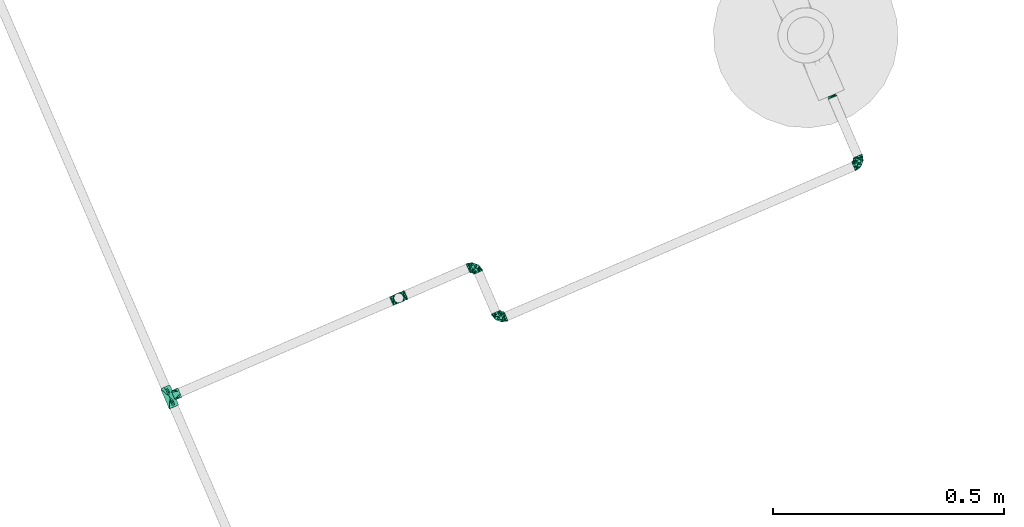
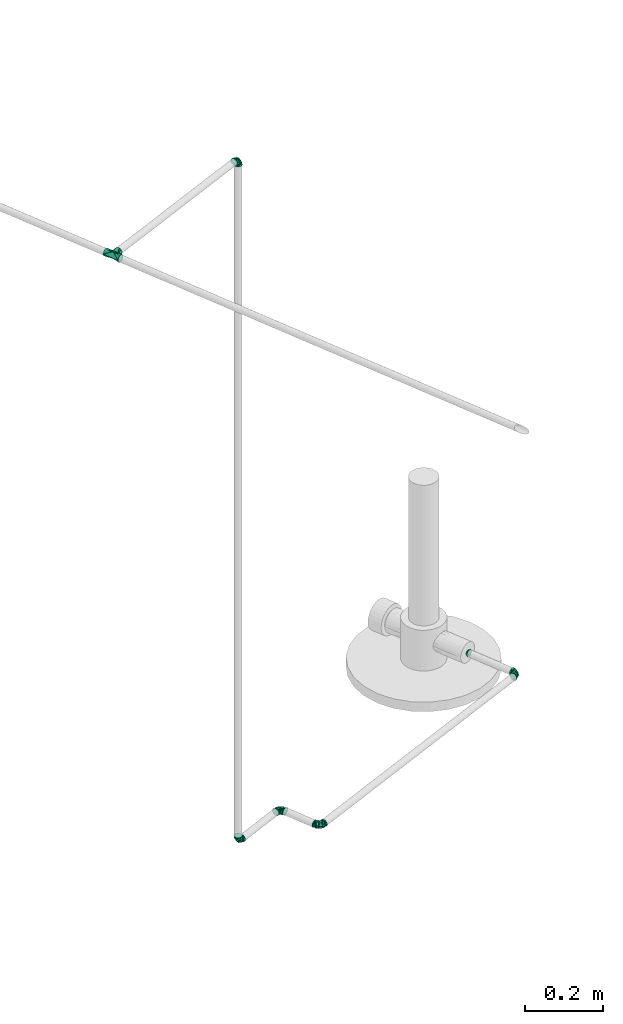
# One storey, part 23 of 26: 7 pipe fittings.
"""IFC4 building model written with IfcOpenShell, lengths in metres."""

from ifc_helpers import new_model, entity, si_unit, converted_unit, derived_unit, direction, frame, origin, place, context, subcontext, project, spatial, polygons, source, transform, mapped, material, type_object, type_shapes, element, save


model = new_model("IFC4")

# Units and contexts
model_context = context("Model", 3, precision=1e-05, world=origin(), true_north=direction((6.12323399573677e-17, 1.0)))
body_context = subcontext(model_context, "Body", "Model", "MODEL_VIEW")
ifc_project = project(units=[si_unit("LENGTHUNIT", "METRE"), si_unit("AREAUNIT", "SQUARE_METRE"), si_unit("VOLUMEUNIT", "CUBIC_METRE"), si_unit("PRESSUREUNIT", "PASCAL"), derived_unit("VOLUMETRICFLOWRATEUNIT", [(si_unit("LENGTHUNIT", "METRE", prefix="DECI"), 3), (si_unit("TIMEUNIT", "SECOND"), -1)]), converted_unit("PLANEANGLEUNIT", "DEGREE", entity("IfcPlaneAngleMeasure", 0.0174532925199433), si_unit("PLANEANGLEUNIT", "RADIAN"), dimensions=[0, 0, 0, 0, 0, 0, 0])], contexts=[model_context])

# Site, building, storey
site_placement = place(None, origin())
site = spatial("IfcSite", under=ifc_project, at=site_placement, Name="Default", CompositionType="ELEMENT")
building_placement = place(site_placement, frame((24.575451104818, -55.896759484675, 317.15), z_axis=(0.0, 0.0, 1.0), x_axis=(-0.396377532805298, 0.918087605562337, 0.0)))
building = spatial("IfcBuilding", under=site, at=building_placement, CompositionType="ELEMENT")
storey_placement = place(building_placement, origin())
storey = spatial("IfcBuildingStorey", under=building, at=storey_placement, Name="Nivel 1", CompositionType="ELEMENT", Elevation=0.0)

# Pipe fittings
ifc_material = material(Name="<Unnamed>")
pipe_fitting_type_1 = type_object("IfcPipeFittingType", Name="M_Transición - Genérica:Norma", PredefinedType="NOTDEFINED", material=ifc_material)
shared_shape_1 = source(origin(), body_context, "Body", "Tessellation", [
    polygons([(0.00555625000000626, -0.0111125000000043, -4.0295957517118e-05), (0.00555625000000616, -0.00555625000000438, -0.0096640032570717), (0.00555625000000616, 0.00555624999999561, -0.00966400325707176), (0.00555625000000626, 0.0111124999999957, -4.02959575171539e-05), (0.00555625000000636, 0.00555624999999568, 0.00958341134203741), (0.00555625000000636, -0.00555625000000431, 0.00958341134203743), (6.26381199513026e-15, -0.0080875, 2.61314334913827e-17), (6.33577987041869e-15, -0.00404374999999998, 0.00700398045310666), (6.33577987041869e-15, 0.00404375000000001, 0.00700398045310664), (6.26381199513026e-15, 0.0080875, -5.22628669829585e-17), (6.19184411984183e-15, 0.00404374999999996, -0.00700398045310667), (6.19184411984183e-15, -0.00404375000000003, -0.00700398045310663), (0.00211556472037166, -0.00923928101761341, -1.5342849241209e-05), (0.00277812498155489, 6.79238755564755e-10, -0.00962014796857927), (0.00344068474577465, 0.00996071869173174, -2.49531044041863e-05), (0.00277812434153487, -0.00748871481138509, -0.00602673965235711), (0.00277812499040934, 0.00530118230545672, -0.00802373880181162), (0.0021260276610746, 0.00924497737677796, -1.54187303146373e-05), (0.00277812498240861, -6.76468328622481e-10, 0.00957985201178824), (0.00343022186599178, -0.00995502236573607, -2.48772237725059e-05), (0.00277812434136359, 0.00748698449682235, 0.00598860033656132), (0.00277812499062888, -0.00530118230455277, 0.00798344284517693)], [[[4, 5, 6, 1, 2, 3]], [[8, 9, 10, 11, 12, 7]], [[16, 1, 20, 13, 7]], [[12, 16, 7]], [[12, 11, 14]], [[2, 16, 14]], [[17, 10, 18, 15]], [[4, 3, 15]], [[17, 3, 14]], [[14, 11, 17]], [[14, 16, 12]], [[10, 17, 11]], [[3, 2, 14]], [[15, 3, 17]], [[1, 16, 2]], [[21, 4, 15, 18, 10]], [[9, 21, 10]], [[9, 8, 19]], [[5, 21, 19]], [[22, 7, 13, 20]], [[1, 6, 20]], [[22, 6, 19]], [[19, 8, 22]], [[19, 21, 9]], [[7, 22, 8]], [[6, 5, 19]], [[20, 6, 22]], [[4, 21, 5]]], closed=True),
])
type_shapes(pipe_fitting_type_1, [shared_shape_1])
pipe_fitting_1_placement = place(storey_placement, frame((29.0507517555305, 40.9427340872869, 0.855540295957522), z_axis=(0.0, 0.0, 1.0), x_axis=(-1.0, 0.0, 0.0)))
element("IfcPipeFitting", 1, at=pipe_fitting_1_placement, inside=storey, type_object=pipe_fitting_type_1, material=ifc_material, Name="M_Transición - Genérica:Norma", ObjectType="M_Transición - Genérica:Norma", PredefinedType="NOTDEFINED", context=body_context, shape_type="MappedRepresentation", body=[
    mapped(shared_shape_1, transform((0.0, 0.0, 0.0), scale=1.0)),
])
pipe_fitting_type_2 = type_object("IfcPipeFittingType", Name="M_Codo - Genérico:Norma", PredefinedType="NOTDEFINED", material=ifc_material)
shared_shape_2 = source(origin(), body_context, "Body", "Tessellation", [
    polygons([(-0.0174624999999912, -0.0111125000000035, -1.903728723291e-15), (-0.0174624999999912, -0.0107338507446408, 0.00287612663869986), (-0.0174624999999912, -0.0096237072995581, 0.0055562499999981), (-0.0174624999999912, -0.00785772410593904, 0.00785772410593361), (-0.0174624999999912, -0.00555625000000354, 0.00962370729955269), (-0.0174624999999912, -0.00287612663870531, 0.0107338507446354), (-0.0174624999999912, -3.55315776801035e-15, 0.0111124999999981), (-0.0174624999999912, 0.00287612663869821, 0.0107338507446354), (-0.0174624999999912, 0.00555624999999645, 0.00962370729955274), (-0.0174624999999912, 0.00785772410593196, 0.00785772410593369), (-0.0174624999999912, 0.00962370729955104, 0.00555624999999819), (-0.0174624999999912, 0.0107338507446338, 0.00287612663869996), (-0.0174624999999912, 0.0111124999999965, -1.86782324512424e-15), (-0.0174624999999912, 0.0107338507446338, -0.00287612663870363), (-0.0174624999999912, 0.00962370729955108, -0.00555625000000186), (-0.0174624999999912, 0.00785772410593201, -0.00785772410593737), (-0.0174624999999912, 0.00555624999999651, -0.00962370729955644), (-0.0174624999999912, 0.00287612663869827, -0.0107338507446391), (-0.0174624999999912, -3.48759354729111e-15, -0.0111125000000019), (-0.0174624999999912, -0.00287612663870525, -0.0107338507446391), (-0.0174624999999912, -0.00555625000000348, -0.00962370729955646), (-0.0174624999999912, -0.00785772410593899, -0.0078577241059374), (-0.0174624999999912, -0.00962370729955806, -0.00555625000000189), (-0.0174624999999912, -0.0107338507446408, -0.00287612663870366), (0.0111125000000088, 0.0174624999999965, -1.89879378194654e-15), (0.010733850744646, 0.0174624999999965, -0.00287612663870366), (0.00962370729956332, 0.0174624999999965, -0.00555625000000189), (0.00785772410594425, 0.0174624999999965, -0.0078577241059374), (0.00555625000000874, 0.0174624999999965, -0.00962370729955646), (0.0028761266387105, 0.0174624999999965, -0.0107338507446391), (8.74542105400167e-15, 0.0174624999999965, -0.0111125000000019), (-0.00287612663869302, 0.0174624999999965, -0.0107338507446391), (-0.00555624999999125, 0.0174624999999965, -0.00962370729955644), (-0.00785772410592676, 0.0174624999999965, -0.00785772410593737), (-0.00962370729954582, 0.0174624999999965, -0.00555625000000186), (-0.0107338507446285, 0.0174624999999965, -0.00287612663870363), (-0.0111124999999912, 0.0174624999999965, -1.80588217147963e-15), (-0.0107338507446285, 0.0174624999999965, 0.00287612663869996), (-0.00962370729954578, 0.0174624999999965, 0.00555624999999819), (-0.00785772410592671, 0.0174624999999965, 0.00785772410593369), (-0.00555624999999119, 0.0174624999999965, 0.00962370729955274), (-0.00287612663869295, 0.0174624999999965, 0.0107338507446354), (8.81098527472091e-15, 0.0174624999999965, 0.0111124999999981), (0.00287612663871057, 0.0174624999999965, 0.0107338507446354), (0.0055562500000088, 0.0174624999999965, 0.00962370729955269), (0.0078577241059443, 0.0174624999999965, 0.00785772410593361), (0.00962370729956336, 0.0174624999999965, 0.0055562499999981), (0.010733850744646, 0.0174624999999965, 0.00287612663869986), (-0.0129723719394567, 0.0129723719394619, -1.79601228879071e-15), (-0.00317499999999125, -0.00728417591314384, -1.903728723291e-15), (0.00728417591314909, 0.00317499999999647, -1.903728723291e-15), (-0.0100511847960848, -0.00912664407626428, -1.903728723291e-15), (0.00912664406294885, 0.0100511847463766, -1.903728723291e-15), (-0.013756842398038, -0.0101195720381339, -1.903728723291e-15), (0.0101195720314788, 0.0137568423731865, -1.903728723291e-15), (-0.0156096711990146, -0.0106160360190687, -1.903728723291e-15), (0.0106160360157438, 0.0156096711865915, -1.903728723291e-15), (0.00205458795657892, -0.00205458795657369, -1.903728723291e-15), (-0.00555538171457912, 0.00884629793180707, 0.0107630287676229), (-0.00691389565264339, 0.00169494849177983, 0.011009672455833), (0.00190822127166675, 0.00896555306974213, 0.0104820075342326), (-0.00661309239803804, -0.00820540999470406, -1.903728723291e-15), (-0.00947063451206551, -0.00404538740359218, 0.00966608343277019), (0.00557118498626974, 0.0106586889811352, 0.00897323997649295), (-0.0129388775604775, 0.00860307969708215, 0.00818609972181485), (-0.00836753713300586, 0.00728984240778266, 0.0104364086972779), (-0.00044279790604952, 0.00110833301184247, 0.00926146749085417), (0.004669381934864, 0.00056020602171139, -1.903728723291e-15), (0.00194294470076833, 0.00415442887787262, 0.00930962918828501), (-0.000560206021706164, -0.00466938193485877, -1.903728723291e-15), (0.00820540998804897, 0.00661309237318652, -1.903728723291e-15), (-0.0055553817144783, 0.00884629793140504, -0.0107630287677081), (-0.00691389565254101, 0.00169494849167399, -0.0110096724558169), (0.0019082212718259, 0.00896555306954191, -0.0104820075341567), (-0.00947063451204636, -0.00404538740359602, -0.0096660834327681), (0.00557118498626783, 0.0106586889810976, -0.00897323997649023), (-0.012938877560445, 0.00860307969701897, -0.00818609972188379), (-0.00836753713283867, 0.00728984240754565, -0.010436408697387), (-0.000442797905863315, 0.00110833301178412, -0.00926146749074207), (0.00194294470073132, 0.00415442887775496, -0.00930962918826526)], [[[17, 18, 19, 20, 21, 22, 23, 24, 1, 2, 3, 4, 5, 6, 7, 8, 9, 10, 11, 12, 13, 14, 15, 16]], [[31, 32, 33, 34, 35, 36, 37, 38, 39, 40, 41, 42, 43, 44, 45, 46, 47, 48, 25, 26, 27, 28, 29, 30]], [[2, 56, 3]], [[6, 62, 7]], [[67, 69, 59]], [[39, 61, 40]], [[52, 5, 4]], [[3, 54, 4]], [[10, 63, 60]], [[5, 52, 6]], [[62, 50, 63]], [[63, 9, 8]], [[59, 66, 67]], [[6, 52, 62]], [[62, 63, 7]], [[63, 8, 7]], [[66, 65, 60]], [[44, 64, 53]], [[13, 12, 65]], [[64, 51, 71, 53]], [[2, 1, 56]], [[66, 49, 65]], [[63, 10, 9]], [[60, 50, 70]], [[49, 13, 65]], [[60, 70, 67]], [[51, 64, 61]], [[43, 64, 44]], [[53, 45, 44]], [[61, 69, 51]], [[42, 64, 43]], [[50, 60, 63]], [[55, 46, 53]], [[67, 70, 58, 68]], [[53, 46, 45]], [[51, 69, 68]], [[48, 57, 25]], [[11, 60, 65]], [[69, 61, 59]], [[52, 4, 54]], [[38, 37, 59]], [[67, 68, 69]], [[49, 59, 37]], [[55, 47, 46]], [[38, 59, 39]], [[47, 57, 48]], [[61, 41, 40]], [[56, 54, 3]], [[39, 59, 61]], [[55, 57, 47]], [[61, 64, 41]], [[41, 64, 42]], [[60, 11, 10]], [[60, 67, 66]], [[11, 65, 12]], [[49, 66, 59]], [[62, 19, 75]], [[68, 80, 51]], [[79, 78, 72]], [[73, 75, 16]], [[77, 78, 73]], [[35, 34, 74]], [[73, 16, 15]], [[58, 70, 79, 68]], [[14, 13, 77]], [[78, 49, 72]], [[49, 78, 77]], [[77, 73, 15]], [[56, 1, 24]], [[79, 70, 73]], [[22, 52, 54]], [[20, 19, 62]], [[72, 74, 80]], [[52, 22, 21]], [[21, 20, 52]], [[16, 75, 17]], [[68, 79, 80]], [[52, 20, 62]], [[72, 49, 37]], [[50, 73, 70]], [[37, 36, 72]], [[73, 78, 79]], [[53, 28, 55]], [[35, 72, 36]], [[51, 80, 74]], [[54, 23, 22]], [[76, 33, 32]], [[57, 55, 27]], [[54, 56, 23]], [[33, 74, 34]], [[23, 56, 24]], [[31, 76, 32]], [[53, 76, 30]], [[15, 14, 77]], [[29, 28, 53]], [[53, 30, 29]], [[30, 76, 31]], [[76, 74, 33]], [[27, 26, 57]], [[75, 19, 18]], [[51, 74, 76]], [[35, 74, 72]], [[18, 17, 75]], [[27, 55, 28]], [[50, 75, 73]], [[26, 25, 57]], [[76, 53, 71, 51]], [[75, 50, 62]], [[13, 49, 77]], [[80, 79, 72]]], closed=True),
])
type_shapes(pipe_fitting_type_2, [shared_shape_2])
pipe_fitting_2_placement = place(storey_placement, frame((28.8907517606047, 40.9427340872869, 0.855499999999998), z_axis=(0.0, 0.0, 1.0), x_axis=(0.0, -1.0, 0.0)))
element("IfcPipeFitting", 2, at=pipe_fitting_2_placement, inside=storey, type_object=pipe_fitting_type_2, material=ifc_material, Name="M_Codo - Genérico:Norma", ObjectType="M_Codo - Genérico:Norma", PredefinedType="NOTDEFINED", context=body_context, shape_type="MappedRepresentation", body=[
    mapped(shared_shape_2, transform((0.0, 0.0, 0.0), scale=1.0)),
])
pipe_fitting_3_placement = place(storey_placement, frame((29.0193069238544, 41.7948549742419, 0.855500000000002)))
element("IfcPipeFitting", 3, at=pipe_fitting_3_placement, inside=storey, type_object=pipe_fitting_type_2, material=ifc_material, Name="M_Codo - Genérico:Norma", ObjectType="M_Codo - Genérico:Norma", PredefinedType="NOTDEFINED", context=body_context, shape_type="MappedRepresentation", body=[
    mapped(shared_shape_2, transform((0.0, 0.0, 0.0), scale=1.0)),
])
for number, where, z_axis, x_axis in (
    (4, (28.8907517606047, 41.7948549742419, 0.855500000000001), (0.0, 0.0, 1.0), (-1.0, 0.0, 0.0)),
    (5, (29.0193069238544, 41.9748549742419, 0.855500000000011), (1.0, 0.0, 0.0), (0.0, 1.0, 0.0)),
    (6, (29.0193069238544, 41.9748549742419, 3.0), (-1.0, 0.0, 0.0), (0.0, 0.0, 1.0)),
):
    element("IfcPipeFitting", number, at=place(storey_placement, frame(where, z_axis=z_axis, x_axis=x_axis)), inside=storey, type_object=pipe_fitting_type_2, material=ifc_material, Name="M_Codo - Genérico:Norma", ObjectType="M_Codo - Genérico:Norma", PredefinedType="NOTDEFINED", context=body_context, shape_type="MappedRepresentation", body=[
        mapped(shared_shape_2, transform((0.0, 0.0, 0.0), scale=1.0)),
    ])
pipe_fitting_type_3 = type_object("IfcPipeFittingType", Name="M_Te - Genérica:Norma", PredefinedType="NOTDEFINED", material=ifc_material)
shared_shape_3 = source(origin(), body_context, "Body", "Tessellation", [
    polygons([(-0.0238124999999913, -0.0111125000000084, -1.903728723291e-15), (-0.0238124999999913, -0.0107338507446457, 0.00287612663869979), (-0.0238124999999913, -0.00962370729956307, 0.00555624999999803), (-0.0238124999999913, -0.00785772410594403, 0.00785772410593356), (-0.0238124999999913, -0.00555625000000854, 0.00962370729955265), (-0.0238124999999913, -0.00287612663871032, 0.0107338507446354), (-0.0238124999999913, -8.56023581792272e-15, 0.0111124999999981), (-0.0238124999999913, 0.0028761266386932, 0.0107338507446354), (-0.0238124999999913, 0.00555624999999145, 0.00962370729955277), (-0.0238124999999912, 0.00785772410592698, 0.00785772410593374), (-0.0238124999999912, 0.00962370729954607, 0.00555624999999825), (-0.0238124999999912, 0.0107338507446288, 0.00287612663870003), (-0.0238124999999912, 0.0111124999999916, -1.79601228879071e-15), (-0.0238124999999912, 0.0107338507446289, -0.00287612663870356), (-0.0238124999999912, 0.00962370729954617, -0.0055562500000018), (-0.0238124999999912, 0.00785772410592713, -0.00785772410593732), (-0.0238124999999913, 0.00555624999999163, -0.0096237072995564), (-0.0238124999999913, 0.00287612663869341, -0.0107338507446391), (-0.0238124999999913, -8.35739460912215e-15, -0.0111125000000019), (-0.0238124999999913, -0.00287612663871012, -0.0107338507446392), (-0.0238124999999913, -0.00555625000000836, -0.00962370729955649), (-0.0238124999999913, -0.00785772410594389, -0.00785772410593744), (-0.0238124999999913, -0.00962370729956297, -0.00555625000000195), (-0.0238124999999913, -0.0107338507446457, -0.00287612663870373), (0.0238125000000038, -0.0111125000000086, -1.97060473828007e-15), (0.0238125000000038, -0.0107338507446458, -0.00287612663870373), (0.0238125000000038, -0.00962370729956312, -0.00555625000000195), (0.0238125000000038, -0.00785772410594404, -0.00785772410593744), (0.0238125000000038, -0.00555625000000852, -0.00962370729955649), (0.0238125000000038, -0.00287612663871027, -0.0107338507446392), (0.0238125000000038, -8.51041926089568e-15, -0.0111125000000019), (0.0238125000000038, 0.00287612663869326, -0.0107338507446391), (0.0238125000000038, 0.00555624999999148, -0.0096237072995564), (0.0238125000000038, 0.00785772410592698, -0.00785772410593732), (0.0238125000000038, 0.00962370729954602, -0.0055562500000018), (0.0238125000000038, 0.0107338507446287, -0.00287612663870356), (0.0238125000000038, 0.0111124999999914, -1.7367929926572e-15), (0.0238125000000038, 0.0107338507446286, 0.00287612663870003), (0.0238125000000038, 0.00962370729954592, 0.00555624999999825), (0.0238125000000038, 0.00785772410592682, 0.00785772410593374), (0.0238125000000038, 0.0055562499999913, 0.00962370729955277), (0.0238125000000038, 0.00287612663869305, 0.0107338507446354), (0.0238125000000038, -8.71326046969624e-15, 0.0111124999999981), (0.0238125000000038, -0.00287612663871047, 0.0107338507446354), (0.0238125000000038, -0.00555625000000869, 0.00962370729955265), (0.0238125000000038, -0.00785772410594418, 0.00785772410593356), (0.0238125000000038, -0.00962370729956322, 0.00555624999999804), (0.0238125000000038, -0.0107338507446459, 0.00287612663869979), (-0.0111124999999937, -0.0111125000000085, -1.903728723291e-15), (-0.0107094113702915, -0.0107094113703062, 0.00296583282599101), (-0.00961793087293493, -0.00961793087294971, 0.00556624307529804), (-0.00806374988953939, -0.00806374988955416, 0.00764614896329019), (-0.00622834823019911, -0.00622834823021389, 0.00920300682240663), (-0.00422731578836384, -0.00422731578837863, 0.0102770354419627), (-0.0021338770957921, -0.00213387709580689, 0.0109056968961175), (6.2730154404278e-15, -8.61700837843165e-15, 0.0111124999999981), (0.00213387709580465, -0.00213387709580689, 0.0109056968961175), (0.0042273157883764, -0.00422731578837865, 0.0102770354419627), (0.00622834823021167, -0.00622834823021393, 0.00920300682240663), (0.00806374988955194, -0.0080637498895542, 0.0076461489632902), (0.00961793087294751, -0.00961793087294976, 0.00556624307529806), (0.010709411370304, -0.0107094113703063, 0.00296583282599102), (0.0111125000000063, -0.0111125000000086, -1.89879378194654e-15), (0.010709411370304, -0.0107094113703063, -0.00296583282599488), (0.00961793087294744, -0.00961793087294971, -0.00556624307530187), (0.00806374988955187, -0.00806374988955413, -0.00764614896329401), (0.00622834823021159, -0.00622834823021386, -0.00920300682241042), (0.00422731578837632, -0.00422731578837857, -0.0102770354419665), (0.00213387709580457, -0.00213387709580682, -0.0109056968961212), (6.2730154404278e-15, -8.46351658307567e-15, -0.0111125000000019), (-0.00213387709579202, -0.0021338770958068, -0.0109056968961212), (-0.00422731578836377, -0.00422731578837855, -0.0102770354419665), (-0.00622834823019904, -0.00622834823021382, -0.00920300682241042), (-0.00806374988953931, -0.00806374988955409, -0.007646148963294), (-0.00961793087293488, -0.00961793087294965, -0.00556624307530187), (-0.0107094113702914, -0.0107094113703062, -0.00296583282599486), (-0.0111124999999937, -0.0238125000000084, -1.89879378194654e-15), (-0.010733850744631, -0.0238125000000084, -0.00287612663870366), (-0.00962370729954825, -0.0238125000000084, -0.00555625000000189), (-0.00785772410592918, -0.0238125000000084, -0.0078577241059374), (-0.00555624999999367, -0.0238125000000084, -0.00962370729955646), (-0.00287612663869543, -0.0238125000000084, -0.0107338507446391), (6.32632078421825e-15, -0.0238125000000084, -0.0111125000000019), (0.00287612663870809, -0.0238125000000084, -0.0107338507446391), (0.00555625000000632, -0.0238125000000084, -0.00962370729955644), (0.00785772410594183, -0.0238125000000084, -0.00785772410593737), (0.00962370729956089, -0.0238125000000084, -0.00555625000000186), (0.0107338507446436, -0.0238125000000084, -0.00287612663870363), (0.0111125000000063, -0.0238125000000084, -1.7367929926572e-15), (0.0107338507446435, -0.0238125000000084, 0.00287612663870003), (0.00962370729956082, -0.0238125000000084, 0.00555624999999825), (0.00785772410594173, -0.0238125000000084, 0.00785772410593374), (0.0055562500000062, -0.0238125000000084, 0.00962370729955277), (0.00287612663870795, -0.0238125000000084, 0.0107338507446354), (6.19035559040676e-15, -0.0238125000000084, 0.0111124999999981), (-0.00287612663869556, -0.0238125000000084, 0.0107338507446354), (-0.00555624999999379, -0.0238125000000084, 0.00962370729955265), (-0.00785772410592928, -0.0238125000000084, 0.00785772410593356), (-0.00962370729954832, -0.0238125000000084, 0.00555624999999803), (-0.010733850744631, -0.0238125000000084, 0.00287612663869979)], [[[19, 20, 21, 22, 23, 24, 1, 2, 3, 4, 5, 6, 7, 8, 9, 10, 11, 12, 13, 14, 15, 16, 17, 18]], [[32, 33, 34, 35, 36, 37, 38, 39, 40, 41, 42, 43, 44, 45, 46, 47, 48, 25, 26, 27, 28, 29, 30, 31]], [[25, 48, 63]], [[49, 2, 1]], [[48, 62, 63]], [[62, 48, 47]], [[62, 47, 61]], [[46, 45, 60]], [[60, 61, 46]], [[59, 60, 45]], [[46, 61, 47]], [[49, 50, 2]], [[2, 50, 3]], [[50, 51, 3]], [[52, 53, 5]], [[52, 4, 51]], [[4, 52, 5]], [[51, 4, 3]], [[5, 53, 6]], [[44, 59, 45]], [[44, 43, 58]], [[43, 57, 58]], [[57, 43, 42]], [[56, 57, 42]], [[44, 58, 59]], [[41, 40, 56]], [[56, 39, 38]], [[39, 56, 40]], [[42, 41, 56]], [[56, 38, 37]], [[7, 55, 8]], [[54, 7, 6]], [[7, 54, 55]], [[54, 6, 53]], [[55, 56, 8]], [[56, 12, 11]], [[11, 10, 56]], [[9, 8, 56]], [[56, 10, 9]], [[12, 56, 13]], [[56, 37, 13]], [[36, 70, 37]], [[34, 70, 35]], [[70, 36, 35]], [[70, 34, 33]], [[32, 31, 69]], [[31, 68, 69]], [[68, 31, 30]], [[68, 30, 67]], [[33, 32, 70]], [[69, 70, 32]], [[70, 17, 16]], [[14, 70, 15]], [[16, 15, 70]], [[70, 14, 13]], [[70, 71, 18]], [[71, 19, 18]], [[20, 19, 72]], [[72, 19, 71]], [[70, 18, 17]], [[13, 37, 70]], [[29, 28, 66]], [[66, 67, 29]], [[65, 66, 28]], [[28, 27, 65]], [[27, 26, 64]], [[26, 63, 64]], [[63, 26, 25]], [[24, 49, 1]], [[27, 64, 65]], [[73, 21, 20]], [[21, 74, 22]], [[74, 21, 73]], [[22, 74, 75]], [[73, 20, 72]], [[76, 49, 24]], [[75, 76, 23]], [[76, 24, 23]], [[75, 23, 22]], [[67, 30, 29]], [[83, 84, 85, 86, 87, 88, 89, 90, 91, 92, 93, 94, 95, 96, 97, 98, 99, 100, 77, 78, 79, 80, 81, 82]], [[100, 49, 77]], [[99, 50, 100]], [[51, 98, 97]], [[97, 96, 51]], [[99, 98, 50]], [[95, 52, 96]], [[50, 49, 100]], [[51, 50, 98]], [[60, 59, 53, 52]], [[58, 57, 55, 54]], [[54, 53, 59, 58]], [[51, 96, 52]], [[95, 60, 52]], [[93, 61, 94]], [[92, 61, 93]], [[62, 91, 90]], [[89, 63, 90]], [[92, 91, 62]], [[62, 90, 63]], [[56, 55, 57]], [[62, 61, 92]], [[61, 60, 94]], [[60, 95, 94]], [[88, 63, 89]], [[87, 64, 88]], [[65, 86, 85]], [[85, 84, 65]], [[87, 86, 64]], [[83, 66, 84]], [[64, 63, 88]], [[65, 64, 86]], [[74, 73, 67, 66]], [[72, 71, 69, 68]], [[68, 67, 73, 72]], [[65, 84, 66]], [[83, 74, 66]], [[81, 75, 82]], [[80, 75, 81]], [[76, 79, 78]], [[77, 49, 78]], [[80, 79, 76]], [[76, 78, 49]], [[70, 69, 71]], [[76, 75, 80]], [[75, 74, 82]], [[74, 83, 82]]], closed=True),
])
type_shapes(pipe_fitting_type_3, [shared_shape_3])
pipe_fitting_4_placement = place(storey_placement, frame((29.0193069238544, 42.5138766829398, 3.0)))
element("IfcPipeFitting", 7, at=pipe_fitting_4_placement, inside=storey, type_object=pipe_fitting_type_3, material=ifc_material, Name="M_Te - Genérica:Norma", ObjectType="M_Te - Genérica:Norma", PredefinedType="NOTDEFINED", context=body_context, shape_type="MappedRepresentation", body=[
    mapped(shared_shape_3, transform((0.0, 0.0, 0.0), scale=1.0)),
])

save(model, "model.ifc")
